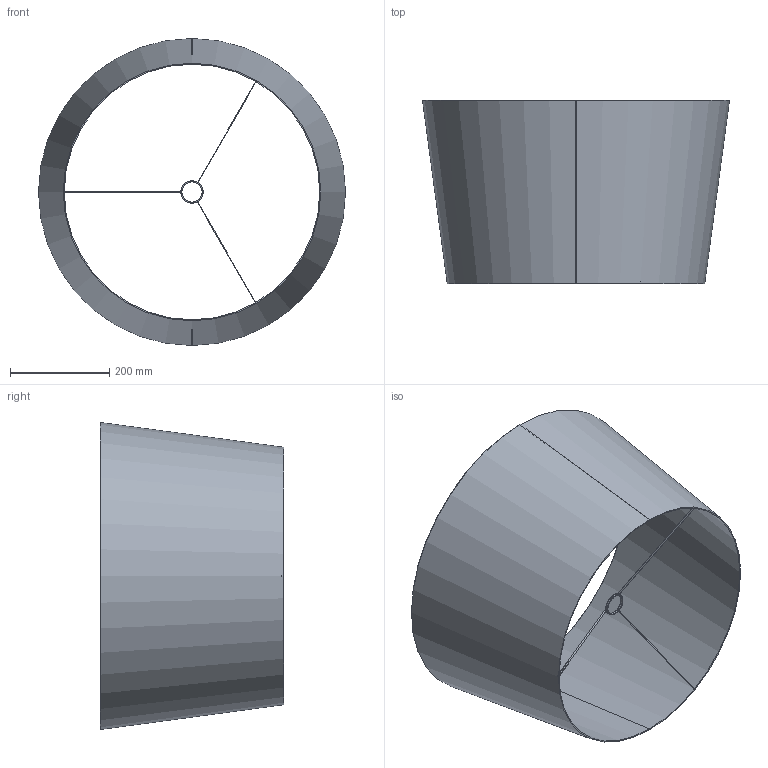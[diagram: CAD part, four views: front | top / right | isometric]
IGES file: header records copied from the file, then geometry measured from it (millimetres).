
Start section: SolidWorks IGES file using analytic representation for surfaces
Global section: file name: C:\Users\a.sempere\Desktop\PANTALLAS\A-PANTALLAS-TELA\5PANT0024B\5PANT0024B.IGS; native system: SolidWorks 2024; preprocessor: SolidWorks 2024; author: a.sempere; date: 250120.124536; units: millimetre
Bounding box: 620 x 370.27 x 620 mm (x, y, z)
Surface area: 1348533 mm2 (no closed solid volume)
Topology: 0 solids, 0 shells, 32 faces, 376 edges, 376 vertices
Faces by surface type: bspline 20, revolution 12
